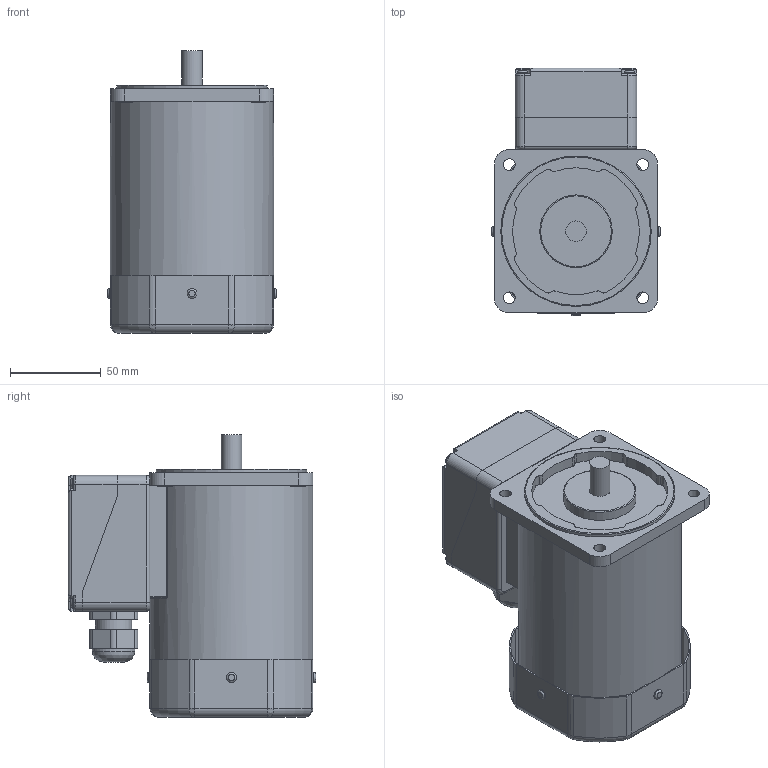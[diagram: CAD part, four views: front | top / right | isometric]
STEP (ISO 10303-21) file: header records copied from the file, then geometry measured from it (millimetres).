
FILE_DESCRIPTION((''),'2;1');
FILE_NAME('E:\2공장-도면\3D\표준형 3D(민규)\step file\K9IP90Fㅁ-T5.stp','2014-11-13T09:53:35',('AHN'),(''),'Autodesk Inventor 2012','Autodesk Inventor 2012','');
FILE_SCHEMA(('CONFIG_CONTROL_DESIGN'));
Length unit declared in the file: millimetre
Products named in the file (5): K9IP90Fㅁ-T5; 케이블; BASE(a); COVER(a); K9IP90Fㅁ
Assembly tree (4 placements, depth 2):
  K9IP90Fㅁ-T5
    케이블
    BASE(a)
    COVER(a)
    K9IP90Fㅁ
Bounding box: 93 x 136.5 x 156 mm (x, y, z)
Volume: 867337.2 mm3; surface area: 127004.1 mm2
Topology: 4 solids, 10 shells, 695 faces, 1712 edges, 1039 vertices
Faces by surface type: cylinder 315, plane 183, torus 138, bspline 31, sphere 20, cone 8
Full cylindrical faces by diameter (mm): 3.242 x4, 3.5 x4, 4.5 x4, 5.5 x8, 6.5 x4, 8 x4, 11.3 x1, 20 x1, 21 x1, 23.5 x1, 40 x1, 83 x1, 90 x1
Entity records: 22068 total; most frequent: CARTESIAN_POINT 5500, DIRECTION 3700, ORIENTED_EDGE 3256, EDGE_CURVE 1628, AXIS2_PLACEMENT_3D 1500, VERTEX_POINT 1021, CIRCLE 819, EDGE_LOOP 815
